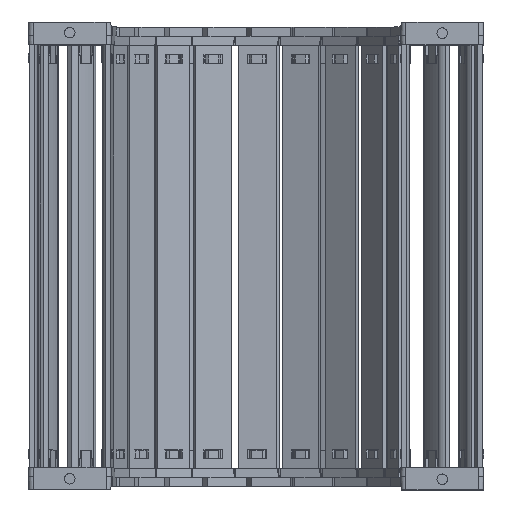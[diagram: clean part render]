
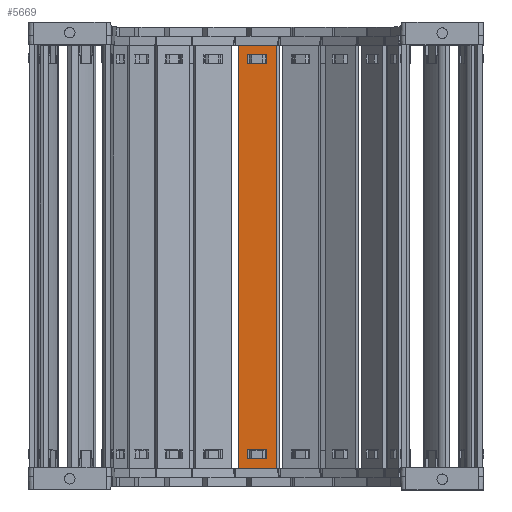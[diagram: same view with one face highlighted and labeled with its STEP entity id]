
A CAD part, top view. The second image highlights one B-rep face of the part: STEP entity #5669.
In plain terms, the highlighted planar face has unit normal (-0.044, 0, 0.999) as drawn and (0, 1, 0) by its records, which use the part's own axes.
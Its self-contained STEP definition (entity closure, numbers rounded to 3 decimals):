
#5089=DIRECTION('',(0.,0.,1.));
#5090=VECTOR('',#5089,15.8);
#5091=CARTESIAN_POINT('',(161.24,1.5,-7.9));
#5092=LINE('',#5091,#5090);
#5093=DIRECTION('',(-1.,0.,0.));
#5094=VECTOR('',#5093,176.);
#5095=CARTESIAN_POINT('',(161.24,1.5,7.9));
#5096=LINE('',#5095,#5094);
#5097=DIRECTION('',(0.,0.,-1.));
#5098=VECTOR('',#5097,15.8);
#5099=CARTESIAN_POINT('',(-14.76,1.5,7.9));
#5100=LINE('',#5099,#5098);
#5101=DIRECTION('',(1.,0.,0.));
#5102=VECTOR('',#5101,3.648);
#5103=CARTESIAN_POINT('',(153.622,1.5,4.075));
#5104=LINE('',#5103,#5102);
#5105=DIRECTION('',(0.,0.,-1.));
#5106=VECTOR('',#5105,8.15);
#5107=CARTESIAN_POINT('',(157.27,1.5,4.075));
#5108=LINE('',#5107,#5106);
#5109=DIRECTION('',(-1.,0.,0.));
#5110=VECTOR('',#5109,3.648);
#5111=CARTESIAN_POINT('',(157.27,1.5,-4.075));
#5112=LINE('',#5111,#5110);
#5113=DIRECTION('',(0.,0.,-1.));
#5114=VECTOR('',#5113,8.15);
#5115=CARTESIAN_POINT('',(-7.142,1.5,4.075));
#5116=LINE('',#5115,#5114);
#5117=DIRECTION('',(-1.,0.,0.));
#5118=VECTOR('',#5117,3.648);
#5119=CARTESIAN_POINT('',(-7.142,1.5,-4.075));
#5120=LINE('',#5119,#5118);
#5121=DIRECTION('',(0.,0.,1.));
#5122=VECTOR('',#5121,8.15);
#5123=CARTESIAN_POINT('',(-10.79,1.5,-4.075));
#5124=LINE('',#5123,#5122);
#5125=DIRECTION('',(1.,0.,0.));
#5126=VECTOR('',#5125,3.648);
#5127=CARTESIAN_POINT('',(-10.79,1.5,4.075));
#5128=LINE('',#5127,#5126);
#5133=DIRECTION('',(-1.,0.,0.));
#5134=VECTOR('',#5133,176.);
#5135=CARTESIAN_POINT('',(161.24,1.5,-7.9));
#5136=LINE('',#5135,#5134);
#5254=DIRECTION('',(0.,0.,-1.));
#5255=VECTOR('',#5254,8.15);
#5256=CARTESIAN_POINT('',(153.622,1.5,4.075));
#5257=LINE('',#5256,#5255);
#5439=CARTESIAN_POINT('',(157.27,1.5,4.075));
#5440=VERTEX_POINT('',#5439);
#5441=CARTESIAN_POINT('',(153.622,1.5,4.075));
#5442=VERTEX_POINT('',#5441);
#5483=CARTESIAN_POINT('',(153.622,1.5,-4.075));
#5484=VERTEX_POINT('',#5483);
#5485=CARTESIAN_POINT('',(157.27,1.5,-4.075));
#5486=VERTEX_POINT('',#5485);
#5487=CARTESIAN_POINT('',(161.24,1.5,7.9));
#5489=VERTEX_POINT('',#5487);
#5491=CARTESIAN_POINT('',(161.24,1.5,-7.9));
#5492=VERTEX_POINT('',#5491);
#5515=CARTESIAN_POINT('',(-7.142,1.5,4.075));
#5516=CARTESIAN_POINT('',(-7.142,1.5,-4.075));
#5517=VERTEX_POINT('',#5515);
#5518=VERTEX_POINT('',#5516);
#5519=CARTESIAN_POINT('',(-10.79,1.5,-4.075));
#5520=VERTEX_POINT('',#5519);
#5521=CARTESIAN_POINT('',(-10.79,1.5,4.075));
#5522=VERTEX_POINT('',#5521);
#5523=CARTESIAN_POINT('',(-14.76,1.5,7.9));
#5524=VERTEX_POINT('',#5523);
#5527=CARTESIAN_POINT('',(-14.76,1.5,-7.9));
#5528=VERTEX_POINT('',#5527);
#5638=CARTESIAN_POINT('',(192.98,1.5,10.061));
#5639=DIRECTION('',(0.,-1.,0.));
#5640=DIRECTION('',(0.,0.,-1.));
#5641=AXIS2_PLACEMENT_3D('',#5638,#5639,#5640);
#5642=PLANE('',#5641);
#5643=ORIENTED_EDGE('',*,*,#5577,.T.);
#5644=ORIENTED_EDGE('',*,*,#5603,.T.);
#5645=ORIENTED_EDGE('',*,*,#5616,.T.);
#5647=ORIENTED_EDGE('',*,*,#5646,.F.);
#5648=EDGE_LOOP('',(#5643,#5644,#5645,#5647));
#5649=FACE_OUTER_BOUND('',#5648,.F.);
#5651=ORIENTED_EDGE('',*,*,#5650,.F.);
#5652=ORIENTED_EDGE('',*,*,#5540,.T.);
#5654=ORIENTED_EDGE('',*,*,#5653,.T.);
#5656=ORIENTED_EDGE('',*,*,#5655,.T.);
#5657=EDGE_LOOP('',(#5651,#5652,#5654,#5656));
#5658=FACE_BOUND('',#5657,.F.);
#5660=ORIENTED_EDGE('',*,*,#5659,.T.);
#5662=ORIENTED_EDGE('',*,*,#5661,.T.);
#5664=ORIENTED_EDGE('',*,*,#5663,.T.);
#5666=ORIENTED_EDGE('',*,*,#5665,.T.);
#5667=EDGE_LOOP('',(#5660,#5662,#5664,#5666));
#5668=FACE_BOUND('',#5667,.F.);
#5669=ADVANCED_FACE('',(#5649,#5658,#5668),#5642,.F.);
#5540=EDGE_CURVE('',#5442,#5440,#5104,.T.);
#5577=EDGE_CURVE('',#5492,#5489,#5092,.T.);
#5603=EDGE_CURVE('',#5489,#5524,#5096,.T.);
#5616=EDGE_CURVE('',#5524,#5528,#5100,.T.);
#5646=EDGE_CURVE('',#5492,#5528,#5136,.T.);
#5650=EDGE_CURVE('',#5442,#5484,#5257,.T.);
#5653=EDGE_CURVE('',#5440,#5486,#5108,.T.);
#5655=EDGE_CURVE('',#5486,#5484,#5112,.T.);
#5659=EDGE_CURVE('',#5517,#5518,#5116,.T.);
#5661=EDGE_CURVE('',#5518,#5520,#5120,.T.);
#5663=EDGE_CURVE('',#5520,#5522,#5124,.T.);
#5665=EDGE_CURVE('',#5522,#5517,#5128,.T.);
